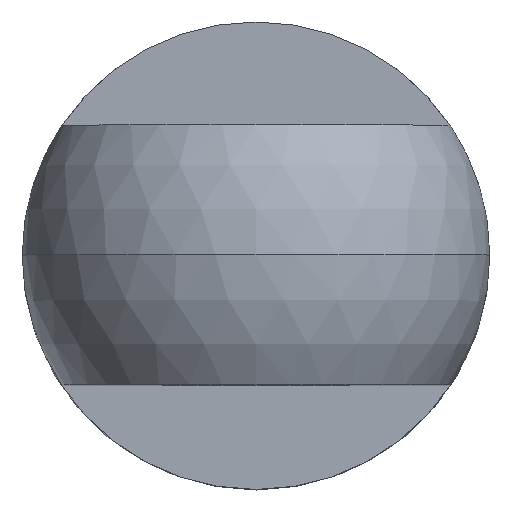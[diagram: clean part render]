
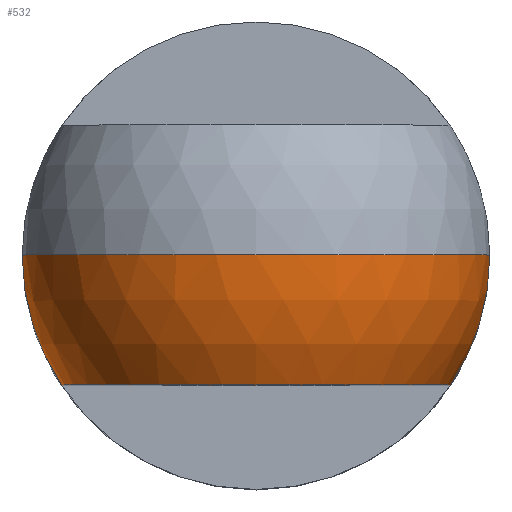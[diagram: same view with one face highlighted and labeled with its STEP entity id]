
A CAD part, top view. The second image highlights one B-rep face of the part: STEP entity #532.
In plain terms, the highlighted spherical face has radius 9 mm.
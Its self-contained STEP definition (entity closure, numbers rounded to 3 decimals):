
#23 = CARTESIAN_POINT ( 'NONE',  ( 0., 0., 27. ) ) ;
#25 = VERTEX_POINT ( 'NONE', #366 ) ;
#38 = FACE_OUTER_BOUND ( 'NONE', #536, .T. ) ;
#44 = AXIS2_PLACEMENT_3D ( 'NONE', #23, #469, #523 ) ;
#69 = SPHERICAL_SURFACE ( 'NONE', #322, 9. ) ;
#78 = CARTESIAN_POINT ( 'NONE',  ( 0., 0., 27. ) ) ;
#91 = CARTESIAN_POINT ( 'NONE',  ( 0., 0., 27. ) ) ;
#102 = ORIENTED_EDGE ( 'NONE', *, *, #455, .F. ) ;
#110 = EDGE_CURVE ( 'NONE', #554, #156, #517, .T. ) ;
#117 = AXIS2_PLACEMENT_3D ( 'NONE', #148, #446, #201 ) ;
#140 = AXIS2_PLACEMENT_3D ( 'NONE', #430, #465, #474 ) ;
#148 = CARTESIAN_POINT ( 'NONE',  ( 0., -5., 27. ) ) ;
#153 = CIRCLE ( 'NONE', #308, 9. ) ;
#156 = VERTEX_POINT ( 'NONE', #325 ) ;
#162 = ORIENTED_EDGE ( 'NONE', *, *, #261, .F. ) ;
#164 = CIRCLE ( 'NONE', #117, 7.483 ) ;
#190 = VERTEX_POINT ( 'NONE', #605 ) ;
#201 = DIRECTION ( 'NONE',  ( 1., 0., 0. ) ) ;
#205 = ORIENTED_EDGE ( 'NONE', *, *, #209, .F. ) ;
#209 = EDGE_CURVE ( 'NONE', #415, #25, #440, .T. ) ;
#211 = DIRECTION ( 'NONE',  ( -1., 0., 0. ) ) ;
#218 = AXIS2_PLACEMENT_3D ( 'NONE', #78, #370, #425 ) ;
#242 = EDGE_CURVE ( 'NONE', #554, #25, #416, .T. ) ;
#254 = CARTESIAN_POINT ( 'NONE',  ( 0., 0., 27. ) ) ;
#261 = EDGE_CURVE ( 'NONE', #156, #190, #153, .T. ) ;
#308 = AXIS2_PLACEMENT_3D ( 'NONE', #91, #618, #330 ) ;
#322 = AXIS2_PLACEMENT_3D ( 'NONE', #254, #359, #211 ) ;
#325 = CARTESIAN_POINT ( 'NONE',  ( 9., 0., 27. ) ) ;
#330 = DIRECTION ( 'NONE',  ( -1., 0., 0. ) ) ;
#334 = ORIENTED_EDGE ( 'NONE', *, *, #242, .T. ) ;
#359 = DIRECTION ( 'NONE',  ( 0., 1., 0. ) ) ;
#366 = CARTESIAN_POINT ( 'NONE',  ( -9., 0., 27. ) ) ;
#370 = DIRECTION ( 'NONE',  ( 0., 0., -1. ) ) ;
#415 = VERTEX_POINT ( 'NONE', #589 ) ;
#416 = CIRCLE ( 'NONE', #140, 9. ) ;
#425 = DIRECTION ( 'NONE',  ( -1., 0., 0. ) ) ;
#430 = CARTESIAN_POINT ( 'NONE',  ( 0., 0., 27. ) ) ;
#440 = CIRCLE ( 'NONE', #218, 9. ) ;
#446 = DIRECTION ( 'NONE',  ( 0., -1., 0. ) ) ;
#455 = EDGE_CURVE ( 'NONE', #190, #415, #164, .T. ) ;
#457 = CARTESIAN_POINT ( 'NONE',  ( 0., 0., 36. ) ) ;
#465 = DIRECTION ( 'NONE',  ( 0., -1., 0. ) ) ;
#469 = DIRECTION ( 'NONE',  ( 0., 1., 0. ) ) ;
#474 = DIRECTION ( 'NONE',  ( 0., 0., -1. ) ) ;
#512 = ORIENTED_EDGE ( 'NONE', *, *, #110, .F. ) ;
#517 = CIRCLE ( 'NONE', #44, 9. ) ;
#523 = DIRECTION ( 'NONE',  ( -1., 0., 0. ) ) ;
#532 = ADVANCED_FACE ( 'NONE', ( #38 ), #69, .T. ) ;
#536 = EDGE_LOOP ( 'NONE', ( #512, #334, #205, #102, #162 ) ) ;
#554 = VERTEX_POINT ( 'NONE', #457 ) ;
#589 = CARTESIAN_POINT ( 'NONE',  ( -7.483, -5., 27. ) ) ;
#605 = CARTESIAN_POINT ( 'NONE',  ( 7.483, -5., 27. ) ) ;
#618 = DIRECTION ( 'NONE',  ( 0., 0., -1. ) ) ;
